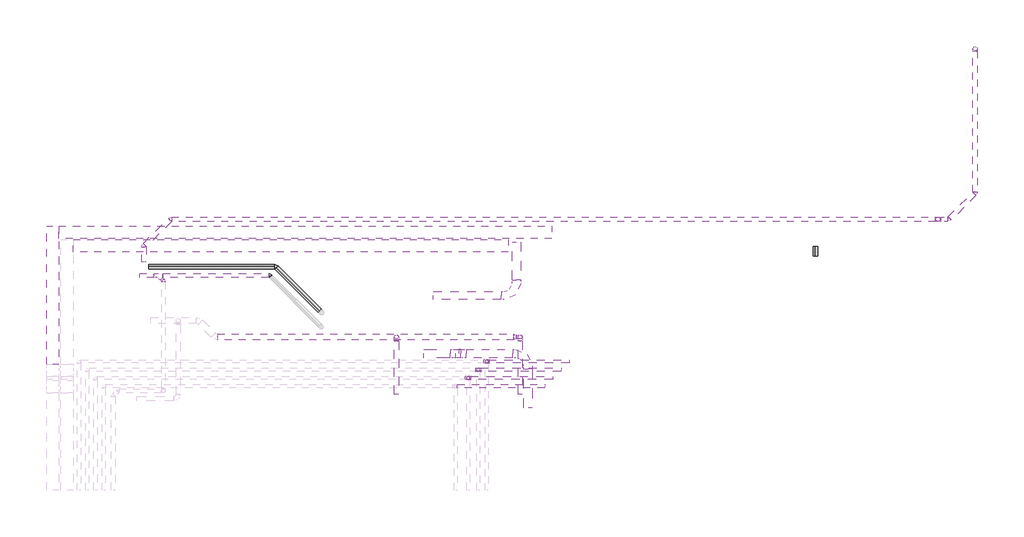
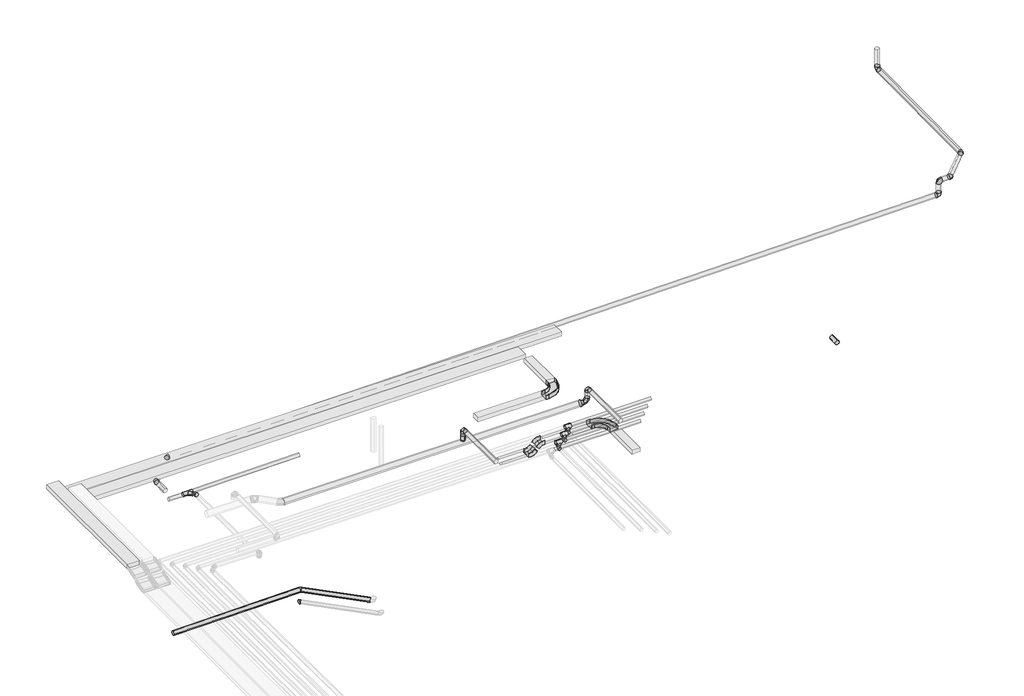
# One storey, part 5 of 5: 21 pipe segments, 17 pipe fittings, 9 cable carrier segments, 5 duct fittings, 5 duct segments, 4 cable carrier fittings.
"""IFC4 building model written with IfcOpenShell, lengths in millimetres."""

from ifc_helpers import new_model, si_unit, point, frame, frame_2d, origin, place, context, project, spatial, polyline, circle_curve, trimmed, segment, composite_curve, outline, extrude, transform, mapped, element, save
from components import m_codo_horizontal_de_canal_el_01cafb92, m_codo_vertical_exterior_de_canal_sf_2009c7b2, m_codo_vertical_interior_de_canal_sf_1a39cf6d, duct_fitting_dce10068, ext_4e2ed20d, m_codo_redondo_ext_1_d_85067ab4, pipe_fitting_7b861d32, pipe_fitting_67d104e7, pipe_fitting_3454c7e7, pipe_fitting_f9aaa2fa, pipe_fitting_5746b48a, pipe_fitting_3a68447e, pipe_fitting_2586d89a, pipe_fitting_872c9969, t_soldadura_a_enchufe_ff252817

model = new_model("IFC4")

# Units and contexts
model_context = context("Model", 3, world=origin())
ifc_project = project(units=[si_unit("LENGTHUNIT", "METRE", prefix="MILLI")], contexts=[model_context])

# Site, building, storey
site = spatial("IfcSite", under=ifc_project)
building = spatial("IfcBuilding", under=site)
storey = spatial("IfcBuildingStorey", under=building, Name="Nivell 04 P04_PP", Elevation=22410.0)

# Cable carrier fittings
placement = place(None, origin())
m_codo_horizontal_de_canal_el_shape = m_codo_horizontal_de_canal_el_01cafb92(model_context)
element("IfcCableCarrierFitting", 1, ObjectType="M_Codo horizontal de canal : EL", at=placement, inside=storey, context=model_context, shape_type="MappedRepresentation", body=[
    mapped(m_codo_horizontal_de_canal_el_shape, transform((16260.4560007, 7993.9729991, 25220.0), x_axis=(1.0, 0.0, 0.0), y_axis=(0.0, 1.0, 0.0), z_axis=(0.0, 0.0, 1.0))),
])
element("IfcCableCarrierFitting", 2, ObjectType="M_Codo horizontal de canal : SF", at=placement, inside=storey, context=model_context, shape_type="MappedRepresentation", body=[
    mapped(m_codo_horizontal_de_canal_el_shape, transform((16540.4560007, 6585.5467988, 25220.0), x_axis=(0.0, 1.0, 0.0), y_axis=(-1.0, 0.0, 0.0), z_axis=(0.0, 0.0, 1.0))),
])
m_codo_vertical_exterior_de_canal_sf_shape = m_codo_vertical_exterior_de_canal_sf_2009c7b2(model_context)
element("IfcCableCarrierFitting", 3, ObjectType="M_Codo vertical exterior de canal : SF", at=placement, inside=storey, context=model_context, shape_type="MappedRepresentation", body=[
    mapped(m_codo_vertical_exterior_de_canal_sf_shape, transform((14940.4560007, 6585.5467988, 25220.0), x_axis=(-1.0, 0.0, 0.0), y_axis=(0.0, 0.0, -1.0), z_axis=(0.0, -1.0, 0.0))),
])
m_codo_vertical_interior_de_canal_sf_shape = m_codo_vertical_interior_de_canal_sf_1a39cf6d(model_context)
element("IfcCableCarrierFitting", 4, ObjectType="M_Codo vertical interior de canal : SF", at=placement, inside=storey, context=model_context, shape_type="MappedRepresentation", body=[
    mapped(m_codo_vertical_interior_de_canal_sf_shape, transform((14749.5371698, 6585.5467988, 25029.0811691), x_axis=(-0.707106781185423, 0.0, -0.7071067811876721), y_axis=(-0.7071067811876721, 0.0, 0.707106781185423), z_axis=(0.0, 1.0, 0.0))),
])

# Cable carrier segments
element("IfcCableCarrierSegment", 5, ObjectType="EL", at=placement, inside=storey, context=model_context, shape_type="SweptSolid", body=[
    extrude(outline(polyline([(17114.9442475, 9685.9660196), (17114.9442475, 9385.9660196), (5158.2381883, 9385.9660196), (5158.2381883, 9685.9660196), (17114.9442475, 9685.9660196)])), frame((0.0, 0.0, 25460.0), z_axis=(0.0, 0.0, 1.0), x_axis=(1.0, 0.0, 0.0)), (0.0, 0.0, 1.0), 100.0),
])
element("IfcCableCarrierSegment", 6, ObjectType="EL", at=placement, inside=storey, context=model_context, shape_type="SweptSolid", body=[
    extrude(outline(polyline([(5507.0671065, 9056.732053), (5507.0671065, 9356.732053), (16057.0671065, 9356.732053), (16057.0671065, 9056.732053), (5507.0671065, 9056.732053)])), frame((0.0, 0.0, 25460.0), z_axis=(0.0, 0.0, 1.0), x_axis=(1.0, 0.0, 0.0)), (0.0, 0.0, 1.0), 100.0),
])
element("IfcCableCarrierSegment", 7, ObjectType="EL", at=placement, inside=storey, context=model_context, shape_type="SweptSolid", body=[
    extrude(outline(polyline([(14245.4560007, 7893.9729991), (14245.4560007, 8093.9729991), (15885.4560007, 8093.9729991), (15885.4560007, 7893.9729991), (14245.4560007, 7893.9729991)])), frame((0.0, 0.0, 25170.0), z_axis=(0.0, 0.0, 1.0), x_axis=(1.0, 0.0, 0.0)), (0.0, 0.0, 1.0), 100.0),
])
element("IfcCableCarrierSegment", 8, ObjectType="EL", at=placement, inside=storey, context=model_context, shape_type="SweptSolid", body=[
    extrude(outline(polyline([(16360.4560007, 8368.9729991), (16160.4560007, 8368.9729991), (16160.4560007, 9293.9729991), (16360.4560007, 9293.9729991), (16360.4560007, 8368.9729991)])), frame((0.0, 0.0, 25170.0), z_axis=(0.0, 0.0, 1.0), x_axis=(1.0, 0.0, 0.0)), (0.0, 0.0, 1.0), 100.0),
])
element("IfcCableCarrierSegment", 9, ObjectType="EL", at=placement, inside=storey, context=model_context, shape_type="SweptSolid", body=[
    extrude(outline(polyline([(4858.2381883, 9685.9660196), (5158.2381883, 9685.9660196), (5158.2381883, 6318.3981673), (4858.2381883, 6318.3981673), (4858.2381883, 9685.9660196)])), frame((0.0, 0.0, 25660.0), z_axis=(0.0, 0.0, 1.0), x_axis=(1.0, 0.0, 0.0)), (0.0, 0.0, 1.0), 100.0),
])
element("IfcCableCarrierSegment", 10, ObjectType="SF", at=placement, inside=storey, context=model_context, shape_type="SweptSolid", body=[
    extrude(outline(polyline([(16165.4560007, 6685.5467988), (16165.4560007, 6485.5467988), (15040.3088145, 6485.5467988), (15040.3088145, 6685.5467988), (16165.4560007, 6685.5467988)])), frame((0.0, 0.0, 25170.0), z_axis=(0.0, 0.0, 1.0), x_axis=(1.0, 0.0, 0.0)), (0.0, 0.0, 1.0), 100.0),
])
element("IfcCableCarrierSegment", 11, ObjectType="SF", at=placement, inside=storey, context=model_context, shape_type="SweptSolid", body=[
    extrude(outline(polyline([(16640.4560007, 5265.5467988), (16440.4560007, 5265.5467988), (16440.4560007, 6210.5467988), (16640.4560007, 6210.5467988), (16640.4560007, 5265.5467988)])), frame((0.0, 0.0, 25170.0), z_axis=(0.0, 0.0, 1.0), x_axis=(1.0, 0.0, 0.0)), (0.0, 0.0, 1.0), 100.0),
])
element("IfcCableCarrierSegment", 12, ObjectType="SF", at=placement, inside=storey, context=model_context, shape_type="SweptSolid", body=[
    extrude(outline(polyline([(50.0000001, -11.8033989), (50.0000001, -211.8033989), (-50.0, -211.8033989), (-50.0, -11.8033989), (50.0000001, -11.8033989)])), frame((14820.1437715, 6697.3501977, 25099.6877708), z_axis=(0.7071067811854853, 0.0, 0.7071067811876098), x_axis=(0.7071067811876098, 0.0, -0.7071067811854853)), (0.0, 0.0, 1.0), 70.2943725),
])
element("IfcCableCarrierSegment", 13, ObjectType="SF", at=placement, inside=storey, context=model_context, shape_type="SweptSolid", body=[
    extrude(outline(polyline([(14649.6843561, 6685.5467988), (14649.6843561, 6485.5467988), (14009.5371698, 6485.5467988), (14009.5371698, 6685.5467988), (14649.6843561, 6685.5467988)])), frame((0.0, 0.0, 24979.0811691), z_axis=(0.0, 0.0, 1.0), x_axis=(1.0, 0.0, 0.0)), (0.0, 0.0, 1.0), 100.0),
])

# Duct fittings
duct_fitting_shape = duct_fitting_dce10068(model_context)
element("IfcDuctFitting", 14, ObjectType="M_Transición redonda - Ángulo : EXT_45 graus", at=placement, inside=storey, context=model_context, shape_type="MappedRepresentation", body=[
    mapped(duct_fitting_shape, transform((16250.5896993, 6992.2199701, 25515.0), x_axis=(-1.0, 0.0, 0.0), y_axis=(0.0, -1.0, 0.0), z_axis=(0.0, 0.0, 1.0))),
])
ext_shape = ext_4e2ed20d(model_context)
element("IfcDuctFitting", 15, ObjectType="M_Toma de derivación redonda : EXT", at=placement, inside=storey, context=model_context, shape_type="MappedRepresentation", body=[
    mapped(ext_shape, transform((13350.5896993, 6992.2199701, 25590.0), x_axis=(0.0, 0.0, 1.0), y_axis=(1.0, 0.0, 0.0), z_axis=(0.0, 1.0, 0.0))),
])
m_codo_redondo_ext_1_d_shape = m_codo_redondo_ext_1_d_85067ab4(model_context)
element("IfcDuctFitting", 16, ObjectType="M_Codo redondo : EXT_1 D", at=placement, inside=storey, context=model_context, shape_type="MappedRepresentation", body=[
    mapped(m_codo_redondo_ext_1_d_shape, transform((16350.5896993, 6992.2199701, 25860.0), x_axis=(0.0, 1.0, 0.0), y_axis=(0.0, 0.0, -1.0), z_axis=(-1.0, 0.0, 0.0))),
])
element("IfcDuctFitting", 17, ObjectType="M_Codo redondo : EXT_1 D", at=placement, inside=storey, context=model_context, shape_type="MappedRepresentation", body=[
    mapped(m_codo_redondo_ext_1_d_shape, transform((13350.5896993, 6992.2199701, 25860.0), x_axis=(0.0, 1.0, 0.0), y_axis=(0.0, 0.0, -1.0), z_axis=(-1.0, 0.0, 0.0))),
])
element("IfcDuctFitting", 18, ObjectType="M_Codo redondo : EXT_1 D", at=placement, inside=storey, context=model_context, shape_type="MappedRepresentation", body=[
    mapped(m_codo_redondo_ext_1_d_shape, transform((16350.5896993, 6992.2199701, 25515.0), x_axis=(0.0, 0.0, -1.0), y_axis=(-1.0, 0.0, 0.0), z_axis=(0.0, 1.0, 0.0))),
])

# Duct segments
element("IfcDuctSegment", 19, ObjectType="EXT_Acer Galvanitzat - Rígid", at=placement, inside=storey, context=model_context, shape_type="SweptSolid", body=[
    extrude(outline(composite_curve([segment(trimmed(circle_curve(frame_2d((6992.2199701, 25515.0)), 75.0), [point((7067.2199701, 25515.0))], [point((6992.2199701, 25440.0))], False, "CARTESIAN"), True, "CONTINUOUS"), segment(trimmed(circle_curve(frame_2d((6992.2199701, 25515.0)), 75.0), [point((6992.2199701, 25440.0))], [point((6917.2199701, 25515.0))], False, "CARTESIAN"), True, "CONTINUOUS"), segment(trimmed(circle_curve(frame_2d((6992.2199701, 25515.0)), 75.0), [point((6917.2199701, 25515.0))], [point((6992.2199701, 25590.0))], False, "CARTESIAN"), True, "CONTINUOUS"), segment(trimmed(circle_curve(frame_2d((6992.2199701, 25515.0)), 75.0), [point((6992.2199701, 25590.0))], [point((7067.2199701, 25515.0))], False, "CARTESIAN"), True, "CONTINUOUS")], self_intersect=False)), frame((9012.7217336, 0.0, 0.0), z_axis=(1.0, 0.0, 0.0), x_axis=(0.0, 1.0, 0.0)), (0.0, 0.0, 1.0), 7177.5126266),
])
element("IfcDuctSegment", 20, ObjectType="EXT_Acer Galvanitzat - Rígid", at=placement, inside=storey, context=model_context, shape_type="SweptSolid", body=[
    extrude(outline(composite_curve([segment(trimmed(circle_curve(frame_2d((25860.0, 13350.5896993)), 50.0), [point((25860.0, 13300.5896993))], [point((25810.0, 13350.5896993))], False, "CARTESIAN"), True, "CONTINUOUS"), segment(trimmed(circle_curve(frame_2d((25860.0, 13350.5896993)), 50.0), [point((25810.0, 13350.5896993))], [point((25860.0, 13400.5896993))], False, "CARTESIAN"), True, "CONTINUOUS"), segment(trimmed(circle_curve(frame_2d((25860.0, 13350.5896993)), 50.0), [point((25860.0, 13400.5896993))], [point((25910.0, 13350.5896993))], False, "CARTESIAN"), True, "CONTINUOUS"), segment(trimmed(circle_curve(frame_2d((25860.0, 13350.5896993)), 50.0), [point((25910.0, 13350.5896993))], [point((25860.0, 13300.5896993))], False, "CARTESIAN"), True, "CONTINUOUS")], self_intersect=False)), frame((0.0, 5590.7319202, 0.0), z_axis=(0.0, 1.0, 0.0), x_axis=(0.0, 0.0, 1.0)), (0.0, 0.0, 1.0), 1301.48805),
])
element("IfcDuctSegment", 21, ObjectType="EXT_Acer Galvanitzat - Rígid", at=placement, inside=storey, context=model_context, shape_type="SweptSolid", body=[
    extrude(outline(composite_curve([segment(trimmed(circle_curve(frame_2d((13350.5896993, 6992.2199701)), 50.0), [point((13300.5896993, 6992.2199701))], [point((13350.5896993, 7042.2199701))], False, "CARTESIAN"), True, "CONTINUOUS"), segment(trimmed(circle_curve(frame_2d((13350.5896993, 6992.2199701)), 50.0), [point((13350.5896993, 7042.2199701))], [point((13400.5896993, 6992.2199701))], False, "CARTESIAN"), True, "CONTINUOUS"), segment(trimmed(circle_curve(frame_2d((13350.5896993, 6992.2199701)), 50.0), [point((13400.5896993, 6992.2199701))], [point((13350.5896993, 6942.2199701))], False, "CARTESIAN"), True, "CONTINUOUS"), segment(trimmed(circle_curve(frame_2d((13350.5896993, 6992.2199701)), 50.0), [point((13350.5896993, 6942.2199701))], [point((13300.5896993, 6992.2199701))], False, "CARTESIAN"), True, "CONTINUOUS")], self_intersect=False)), frame((0.0, 0.0, 25691.6), z_axis=(0.0, 0.0, 1.0), x_axis=(1.0, 0.0, 0.0)), (0.0, 0.0, 1.0), 68.4),
])
element("IfcDuctSegment", 22, ObjectType="EXT_Acer Galvanitzat - Rígid", at=placement, inside=storey, context=model_context, shape_type="SweptSolid", body=[
    extrude(outline(composite_curve([segment(trimmed(circle_curve(frame_2d((25860.0, 16350.5896993)), 50.0), [point((25860.0, 16300.5896993))], [point((25810.0, 16350.5896993))], False, "CARTESIAN"), True, "CONTINUOUS"), segment(trimmed(circle_curve(frame_2d((25860.0, 16350.5896993)), 50.0), [point((25810.0, 16350.5896993))], [point((25860.0, 16400.5896993))], False, "CARTESIAN"), True, "CONTINUOUS"), segment(trimmed(circle_curve(frame_2d((25860.0, 16350.5896993)), 50.0), [point((25860.0, 16400.5896993))], [point((25910.0, 16350.5896993))], False, "CARTESIAN"), True, "CONTINUOUS"), segment(trimmed(circle_curve(frame_2d((25860.0, 16350.5896993)), 50.0), [point((25910.0, 16350.5896993))], [point((25860.0, 16300.5896993))], False, "CARTESIAN"), True, "CONTINUOUS")], self_intersect=False)), frame((0.0, 5590.7319202, 0.0), z_axis=(0.0, 1.0, 0.0), x_axis=(0.0, 0.0, 1.0)), (0.0, 0.0, 1.0), 1301.48805),
])
element("IfcDuctSegment", 23, ObjectType="EXT_Acer Galvanitzat - Rígid", at=placement, inside=storey, context=model_context, shape_type="SweptSolid", body=[
    extrude(outline(composite_curve([segment(trimmed(circle_curve(frame_2d((16350.5896993, 6992.2199701)), 50.0), [point((16400.5896993, 6992.2199701))], [point((16350.5896993, 6942.2199701))], False, "CARTESIAN"), True, "CONTINUOUS"), segment(trimmed(circle_curve(frame_2d((16350.5896993, 6992.2199701)), 50.0), [point((16350.5896993, 6942.2199701))], [point((16300.5896993, 6992.2199701))], False, "CARTESIAN"), True, "CONTINUOUS"), segment(trimmed(circle_curve(frame_2d((16350.5896993, 6992.2199701)), 50.0), [point((16300.5896993, 6992.2199701))], [point((16350.5896993, 7042.2199701))], False, "CARTESIAN"), True, "CONTINUOUS"), segment(trimmed(circle_curve(frame_2d((16350.5896993, 6992.2199701)), 50.0), [point((16350.5896993, 7042.2199701))], [point((16400.5896993, 6992.2199701))], False, "CARTESIAN"), True, "CONTINUOUS")], self_intersect=False)), frame((0.0, 0.0, 25615.0), z_axis=(0.0, 0.0, 1.0), x_axis=(1.0, 0.0, 0.0)), (0.0, 0.0, 1.0), 145.0),
])

# Pipe fittings
pipe_fitting_shape = pipe_fitting_7b861d32(model_context)
element("IfcPipeFitting", 24, ObjectType="M_Codo - Genérico : Estándar", at=placement, inside=storey, context=model_context, shape_type="MappedRepresentation", body=[
    mapped(pipe_fitting_shape, transform((10278.5438771, 8480.6962959, 21614.6582407), x_axis=(-0.7070714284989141, 0.7070714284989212, -0.009999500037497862), y_axis=(-0.7070714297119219, -0.7071300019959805, -0.004141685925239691), z_axis=(-0.009999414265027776, 0.004141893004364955, 0.9999414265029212))),
])
pipe_fitting_2_shape = pipe_fitting_67d104e7(model_context)
element("IfcPipeFitting", 25, ObjectType="M_Codo - Genérico : Estándar", at=placement, inside=storey, context=model_context, shape_type="MappedRepresentation", body=[
    mapped(pipe_fitting_2_shape, transform((10418.5757792, 8697.1771083, 21744.2175715), x_axis=(0.9999500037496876, 0.0, 0.009999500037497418), y_axis=(4.141685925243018e-05, 0.9999914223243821, -0.004141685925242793), z_axis=(-0.009999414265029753, 0.004141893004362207, 0.9999414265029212))),
])
element("IfcPipeFitting", 26, ObjectType="M_Codo - Genérico : Estándar", at=placement, inside=storey, context=model_context, shape_type="MappedRepresentation", body=[
    mapped(pipe_fitting_2_shape, transform((27389.4059114, 10484.655764, 25874.9769213), x_axis=(0.0, -0.9999500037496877, -0.009999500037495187), y_axis=(0.9999914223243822, -4.141685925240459e-05, 0.004141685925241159), z_axis=(-0.004141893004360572, -0.009999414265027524, 0.9999414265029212))),
])
element("IfcPipeFitting", 27, ObjectType="M_Codo - Genérico : Estándar", at=placement, inside=storey, context=model_context, shape_type="MappedRepresentation", body=[
    mapped(pipe_fitting_2_shape, transform((7870.0068596, 9850.5932442, 25326.0671248), x_axis=(0.7070714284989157, 0.7070714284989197, 0.009999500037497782), y_axis=(-0.7070714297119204, 0.7071300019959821, -0.004141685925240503), z_axis=(-0.009999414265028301, -0.004141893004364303, 0.9999414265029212))),
])
element("IfcPipeFitting", 28, ObjectType="M_Codo - Genérico : Estándar", at=placement, inside=storey, context=model_context, shape_type="MappedRepresentation", body=[
    mapped(pipe_fitting_2_shape, transform((7222.8096734, 9203.3949709, 25316.9143667), x_axis=(0.0, 0.9999500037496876, 0.009999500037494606), y_axis=(-0.9999914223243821, 4.141685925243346e-05, -0.004141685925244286), z_axis=(-0.004141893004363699, -0.009999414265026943, 0.9999414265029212))),
])
pipe_fitting_3_shape = pipe_fitting_3454c7e7(model_context)
element("IfcPipeFitting", 29, ObjectType="M_Codo - Genérico : Estándar", at=placement, inside=storey, context=model_context, shape_type="MappedRepresentation", body=[
    mapped(pipe_fitting_3_shape, transform((27389.4059114, 13986.9636366, 25910.0), x_axis=(0.0, 0.0, -1.0), y_axis=(0.0, 1.0, 0.0), z_axis=(1.0, 0.0, 0.0))),
])
element("IfcPipeFitting", 30, ObjectType="M_Codo - Genérico : Estándar", at=placement, inside=storey, context=model_context, shape_type="MappedRepresentation", body=[
    mapped(pipe_fitting_3_shape, transform((26487.5503889, 9850.5932442, 25512.2425601), x_axis=(0.9999500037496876, 0.0, 0.00999950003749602), y_axis=(0.00999950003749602, 0.0, -0.9999500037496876), z_axis=(0.0, 1.0, 0.0))),
])
pipe_fitting_4_shape = pipe_fitting_f9aaa2fa(model_context)
element("IfcPipeFitting", 31, ObjectType="M_Codo - Genérico : Estándar", at=placement, inside=storey, context=model_context, shape_type="MappedRepresentation", body=[
    mapped(pipe_fitting_4_shape, transform((26755.352721, 9850.6025322, 25866.0030113), x_axis=(-0.7070713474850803, -0.7070713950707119, -0.010007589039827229), y_axis=(0.7070715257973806, -0.7071299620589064, 0.0041320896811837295), z_axis=(-0.009998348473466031, -0.004154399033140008, 0.9999413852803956))),
])
pipe_fitting_5_shape = pipe_fitting_5746b48a(model_context)
element("IfcPipeFitting", 32, ObjectType="M_Codo - Genérico : Estándar", at=placement, inside=storey, context=model_context, shape_type="MappedRepresentation", body=[
    mapped(pipe_fitting_5_shape, transform((26487.5503889, 9850.6025322, 25863.3252733), x_axis=(-0.9999500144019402, 0.0, -0.009998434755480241), y_axis=(-0.009998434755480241, 0.0, 0.9999500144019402), z_axis=(0.0, 1.0, 0.0))),
])
pipe_fitting_6_shape = pipe_fitting_3a68447e(model_context)
element("IfcPipeFitting", 33, ObjectType="M_Codo - Genérico : Estándar", at=placement, inside=storey, context=model_context, shape_type="MappedRepresentation", body=[
    mapped(pipe_fitting_6_shape, transform((15087.4352568, 5994.2427547, 25372.5), x_axis=(0.0, 0.0, -1.0), y_axis=(0.0, -1.0, 0.0), z_axis=(-1.0, 0.0, 0.0))),
])
element("IfcPipeFitting", 34, ObjectType="M_Codo - Genérico : Estándar", at=placement, inside=storey, context=model_context, shape_type="MappedRepresentation", body=[
    mapped(pipe_fitting_6_shape, transform((15337.4352568, 6194.2427547, 25372.5), x_axis=(0.0, 0.0, -1.0), y_axis=(0.0, -1.0, 0.0), z_axis=(-1.0, 0.0, 0.0))),
])
element("IfcPipeFitting", 35, ObjectType="M_Codo - Genérico : Estándar", at=placement, inside=storey, context=model_context, shape_type="MappedRepresentation", body=[
    mapped(pipe_fitting_6_shape, transform((15537.4352568, 6394.2427547, 25372.5), x_axis=(0.0, 0.0, -1.0), y_axis=(0.0, -1.0, 0.0), z_axis=(-1.0, 0.0, 0.0))),
])
pipe_fitting_7_shape = pipe_fitting_2586d89a(model_context)
element("IfcPipeFitting", 36, ObjectType="M_Codo - Genérico : Estándar", at=placement, inside=storey, context=model_context, shape_type="MappedRepresentation", body=[
    mapped(pipe_fitting_7_shape, transform((7694.7851552, 8352.4015426, 25339.3520633), x_axis=(-1.0272484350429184e-06, 0.9999500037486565, -0.009999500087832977), y_axis=(-0.9999914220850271, -4.2444624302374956e-05, -0.004141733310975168), z_axis=(-0.004141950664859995, 0.009999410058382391, 0.9999414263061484))),
])
pipe_fitting_8_shape = pipe_fitting_872c9969(model_context)
element("IfcPipeFitting", 37, ObjectType="M_Te - Genérica : Estándar", at=placement, inside=storey, context=model_context, shape_type="MappedRepresentation", body=[
    mapped(pipe_fitting_8_shape, transform((7566.4895317, 8480.6962959, 25337.5376996), x_axis=(0.9999500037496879, 0.0, 0.009999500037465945), y_axis=(4.141632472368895e-05, 0.9999914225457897, -0.004141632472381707), z_axis=(-0.009999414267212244, 0.004141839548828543, 0.999941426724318))),
])
t_soldadura_a_enchufe_shape = t_soldadura_a_enchufe_ff252817(model_context)
element("IfcPipeFitting", 38, ObjectType="T-Soldadura a enchufe : Estándar", at=placement, inside=storey, context=model_context, shape_type="MappedRepresentation", body=[
    mapped(t_soldadura_a_enchufe_shape, transform((15087.4352568, 5994.2427547, 25522.5), x_axis=(-1.0, 0.0, 0.0), y_axis=(0.0, 0.0, 1.0), z_axis=(0.0, 1.0, 0.0))),
])
element("IfcPipeFitting", 39, ObjectType="T-Soldadura a enchufe : Estándar", at=placement, inside=storey, context=model_context, shape_type="MappedRepresentation", body=[
    mapped(t_soldadura_a_enchufe_shape, transform((15337.4352568, 6194.2427547, 25522.5), x_axis=(-1.0, 0.0, 0.0), y_axis=(0.0, 0.0, 1.0), z_axis=(0.0, 1.0, 0.0))),
])
element("IfcPipeFitting", 40, ObjectType="T-Soldadura a enchufe : Estándar", at=placement, inside=storey, context=model_context, shape_type="MappedRepresentation", body=[
    mapped(t_soldadura_a_enchufe_shape, transform((15537.4352568, 6394.2427547, 25522.5), x_axis=(-1.0, 0.0, 0.0), y_axis=(0.0, 0.0, 1.0), z_axis=(0.0, 1.0, 0.0))),
])

# Pipe segments
element("IfcPipeSegment", 41, ObjectType="PVC_Baixant", at=placement, inside=storey, context=model_context, shape_type="SweptSolid", body=[
    extrude(outline(composite_curve([segment(trimmed(circle_curve(frame_2d((0.0, -55.0)), 55.0), [point((54.9972505, -54.450055))], [point((0.549945, -109.9972505))], False, "CARTESIAN"), True, "CONTINUOUS"), segment(trimmed(circle_curve(frame_2d((0.0, -55.0)), 55.0), [point((0.549945, -109.9972505))], [point((-54.9972505, -55.549945))], False, "CARTESIAN"), True, "CONTINUOUS"), segment(trimmed(circle_curve(frame_2d((0.0, -55.0)), 55.0), [point((-54.9972505, -55.549945))], [point((-0.549945, -0.0027495))], False, "CARTESIAN"), True, "CONTINUOUS"), segment(trimmed(circle_curve(frame_2d((0.0, -55.0)), 55.0), [point((-0.549945, -0.0027495))], [point((54.9972505, -54.450055))], False, "CARTESIAN"), True, "CONTINUOUS")], self_intersect=False)), frame((10437.0077448, 8679.5228824, 21799.4727397), z_axis=(0.7070714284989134, -0.707071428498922, 0.009999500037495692), x_axis=(0.7071421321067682, 0.7070007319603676, -0.009998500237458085)), (0.0, 0.0, 1.0), 1489.9424458),
])
element("IfcPipeSegment", 42, ObjectType="PVC_Baixant", at=placement, inside=storey, context=model_context, shape_type="SweptSolid", body=[
    extrude(outline(composite_curve([segment(trimmed(circle_curve(frame_2d((0.0, -55.0)), 55.0), [point((0.0, 0.0))], [point((55.0, -55.0))], False, "CARTESIAN"), True, "CONTINUOUS"), segment(trimmed(circle_curve(frame_2d((0.0, -55.0)), 55.0), [point((55.0, -55.0))], [point((0.0, -110.0))], False, "CARTESIAN"), True, "CONTINUOUS"), segment(trimmed(circle_curve(frame_2d((0.0, -55.0)), 55.0), [point((0.0, -110.0))], [point((-55.0, -55.0))], False, "CARTESIAN"), True, "CONTINUOUS"), segment(trimmed(circle_curve(frame_2d((0.0, -55.0)), 55.0), [point((-55.0, -55.0))], [point((0.0, 0.0))], False, "CARTESIAN"), True, "CONTINUOUS")], self_intersect=False)), frame((7340.3329326, 8752.1771083, 21713.4351431), z_axis=(0.9999500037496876, 0.0, 0.009999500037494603), x_axis=(0.009999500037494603, 0.0, -0.9999500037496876)), (0.0, 0.0, 1.0), 3052.3287157),
])
element("IfcPipeSegment", 43, ObjectType="PVC_Baixant", at=placement, inside=storey, context=model_context, shape_type="SweptSolid", body=[
    extrude(outline(composite_curve([segment(trimmed(circle_curve(frame_2d((27389.4059114, 13986.9636366)), 55.0), [point((27334.4059114, 13986.9636366))], [point((27389.4059114, 14041.9636366))], False, "CARTESIAN"), True, "CONTINUOUS"), segment(trimmed(circle_curve(frame_2d((27389.4059114, 13986.9636366)), 55.0), [point((27389.4059114, 14041.9636366))], [point((27444.4059114, 13986.9636366))], False, "CARTESIAN"), True, "CONTINUOUS"), segment(trimmed(circle_curve(frame_2d((27389.4059114, 13986.9636366)), 55.0), [point((27444.4059114, 13986.9636366))], [point((27389.4059114, 13931.9636366))], False, "CARTESIAN"), True, "CONTINUOUS"), segment(trimmed(circle_curve(frame_2d((27389.4059114, 13986.9636366)), 55.0), [point((27389.4059114, 13931.9636366))], [point((27334.4059114, 13986.9636366))], False, "CARTESIAN"), True, "CONTINUOUS")], self_intersect=False)), frame((0.0, 0.0, 25972.3112718), z_axis=(0.0, 0.0, 1.0), x_axis=(1.0, 0.0, 0.0)), (0.0, 0.0, 1.0), 437.6887282),
])
element("IfcPipeSegment", 44, ObjectType="PVC_Baixant", at=placement, inside=storey, context=model_context, shape_type="SweptSolid", body=[
    extrude(outline(composite_curve([segment(trimmed(circle_curve(frame_2d((0.0, -55.0)), 55.0), [point((-55.0, -55.0))], [point((0.0, 0.0))], False, "CARTESIAN"), True, "CONTINUOUS"), segment(trimmed(circle_curve(frame_2d((0.0, -55.0)), 55.0), [point((0.0, 0.0))], [point((55.0, -55.0))], False, "CARTESIAN"), True, "CONTINUOUS"), segment(trimmed(circle_curve(frame_2d((0.0, -55.0)), 55.0), [point((55.0, -55.0))], [point((0.0, -110.0))], False, "CARTESIAN"), True, "CONTINUOUS"), segment(trimmed(circle_curve(frame_2d((0.0, -55.0)), 55.0), [point((0.0, -110.0))], [point((-55.0, -55.0))], False, "CARTESIAN"), True, "CONTINUOUS")], self_intersect=False)), frame((27389.4059114, 10511.2724723, 25820.2403384), z_axis=(0.0, 0.9999500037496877, 0.009999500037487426), x_axis=(1.0, 0.0, 0.0)), (0.0, 0.0, 1.0), 3414.1036727),
])
element("IfcPipeSegment", 45, ObjectType="PVC_Baixant", at=placement, inside=storey, context=model_context, shape_type="SweptSolid", body=[
    extrude(outline(composite_curve([segment(trimmed(circle_curve(frame_2d((0.0, -55.0)), 55.0), [point((-54.997246, -54.4496102))], [point((0.5503898, -0.0027539))], False, "CARTESIAN"), True, "CONTINUOUS"), segment(trimmed(circle_curve(frame_2d((0.0, -55.0)), 55.0), [point((0.5503898, -0.0027539))], [point((54.997246, -55.5503898))], False, "CARTESIAN"), True, "CONTINUOUS"), segment(trimmed(circle_curve(frame_2d((0.0, -55.0)), 55.0), [point((54.997246, -55.5503898))], [point((-0.5503899, -109.9972461))], False, "CARTESIAN"), True, "CONTINUOUS"), segment(trimmed(circle_curve(frame_2d((0.0, -55.0)), 55.0), [point((-0.5503899, -109.9972461))], [point((-54.997246, -54.4496102))], False, "CARTESIAN"), True, "CONTINUOUS")], self_intersect=False)), frame((26773.7846855, 9869.8128666, 25811.2693976), z_axis=(0.7070713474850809, 0.7070713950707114, 0.010007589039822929), x_axis=(0.7071422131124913, -0.707000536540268, -0.010006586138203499)), (0.0, 0.0, 1.0), 844.5954746),
])
element("IfcPipeSegment", 46, ObjectType="PVC_Baixant", at=placement, inside=storey, context=model_context, shape_type="SweptSolid", body=[
    extrude(outline(composite_curve([segment(trimmed(circle_curve(frame_2d((0.0, -55.0)), 55.0), [point((0.0, 0.0))], [point((55.0, -55.0))], False, "CARTESIAN"), True, "CONTINUOUS"), segment(trimmed(circle_curve(frame_2d((0.0, -55.0)), 55.0), [point((55.0, -55.0))], [point((0.0, -110.0))], False, "CARTESIAN"), True, "CONTINUOUS"), segment(trimmed(circle_curve(frame_2d((0.0, -55.0)), 55.0), [point((0.0, -110.0))], [point((-55.0, -55.0))], False, "CARTESIAN"), True, "CONTINUOUS"), segment(trimmed(circle_curve(frame_2d((0.0, -55.0)), 55.0), [point((-55.0, -55.0))], [point((0.0, 0.0))], False, "CARTESIAN"), True, "CONTINUOUS")], self_intersect=False)), frame((7896.0735954, 9905.5932442, 25326.3277921), z_axis=(0.9999500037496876, 0.0, 0.009999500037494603), x_axis=(0.009999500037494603, 0.0, -0.9999500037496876)), (0.0, 0.0, 1.0), 18530.0950724),
])
element("IfcPipeSegment", 47, ObjectType="PVC_Baixant", at=placement, inside=storey, context=model_context, shape_type="SweptSolid", body=[
    extrude(outline(composite_curve([segment(trimmed(circle_curve(frame_2d((0.0, -55.0000001)), 55.0), [point((-54.9972505, -54.450056))], [point((0.549944, -0.0027495))], False, "CARTESIAN"), True, "CONTINUOUS"), segment(trimmed(circle_curve(frame_2d((0.0, -55.0000001)), 55.0), [point((0.549944, -0.0027495))], [point((54.9972505, -55.5499441))], False, "CARTESIAN"), True, "CONTINUOUS"), segment(trimmed(circle_curve(frame_2d((0.0, -55.0000001)), 55.0), [point((54.9972505, -55.5499441))], [point((-0.5499441, -109.9972505))], False, "CARTESIAN"), True, "CONTINUOUS"), segment(trimmed(circle_curve(frame_2d((0.0, -55.0000001)), 55.0), [point((-0.5499441, -109.9972505))], [point((-54.9972505, -54.450056))], False, "CARTESIAN"), True, "CONTINUOUS")], self_intersect=False)), frame((7241.2416391, 9222.6046755, 25262.1805332), z_axis=(0.7070707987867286, 0.707072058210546, 0.009999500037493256), x_axis=(0.7071427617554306, -0.707000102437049, -0.009998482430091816)), (0.0, 0.0, 1.0), 863.1854914),
])
element("IfcPipeSegment", 48, ObjectType="PVC_Baixant", at=placement, inside=storey, context=model_context, shape_type="SweptSolid", body=[
    extrude(outline(composite_curve([segment(trimmed(circle_curve(frame_2d((0.0, -55.0)), 55.0), [point((0.0, 0.0))], [point((55.0, -55.0))], False, "CARTESIAN"), True, "CONTINUOUS"), segment(trimmed(circle_curve(frame_2d((0.0, -55.0)), 55.0), [point((55.0, -55.0))], [point((0.0, -110.0))], False, "CARTESIAN"), True, "CONTINUOUS"), segment(trimmed(circle_curve(frame_2d((0.0, -55.0)), 55.0), [point((0.0, -110.0))], [point((-55.0, -55.0))], False, "CARTESIAN"), True, "CONTINUOUS"), segment(trimmed(circle_curve(frame_2d((0.0, -55.0)), 55.0), [point((-55.0, -55.0))], [point((0.0, 0.0))], False, "CARTESIAN"), True, "CONTINUOUS")], self_intersect=False)), frame((26549.8586125, 9905.6025322, 25863.9482891), z_axis=(0.9999500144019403, 0.0, 0.009998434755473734), x_axis=(0.009998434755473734, 0.0, -0.9999500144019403)), (0.0, 0.0, 1.0), 179.4363416),
])
element("IfcPipeSegment", 49, ObjectType="PVC_Baixant", at=placement, inside=storey, context=model_context, shape_type="SweptSolid", body=[
    extrude(outline(composite_curve([segment(trimmed(circle_curve(frame_2d((0.0, 55.0)), 55.0), [point((-55.0, 55.0))], [point((0.0, 110.0))], False, "CARTESIAN"), True, "CONTINUOUS"), segment(trimmed(circle_curve(frame_2d((0.0, 55.0)), 55.0), [point((0.0, 110.0))], [point((55.0, 55.0))], False, "CARTESIAN"), True, "CONTINUOUS"), segment(trimmed(circle_curve(frame_2d((0.0, 55.0)), 55.0), [point((55.0, 55.0))], [point((0.0, 0.0))], False, "CARTESIAN"), True, "CONTINUOUS"), segment(trimmed(circle_curve(frame_2d((0.0, 55.0)), 55.0), [point((0.0, 0.0))], [point((-55.0, 55.0))], False, "CARTESIAN"), True, "CONTINUOUS")], self_intersect=False)), frame((26487.5503889, 9795.5932442, 25574.5560876), z_axis=(0.0, 4.1014092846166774e-05, 0.9999999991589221), x_axis=(1.0, 0.0, 0.0)), (0.0, 0.0, 1.0), 226.4600963),
])
element("IfcPipeSegment", 50, ObjectType="PVC_Baixant", at=placement, inside=storey, context=model_context, shape_type="SweptSolid", body=[
    extrude(outline(composite_curve([segment(trimmed(circle_curve(frame_2d((0.0, -55.0)), 55.0), [point((-55.0, -55.0))], [point((0.0, 0.0))], False, "CARTESIAN"), True, "CONTINUOUS"), segment(trimmed(circle_curve(frame_2d((0.0, -55.0)), 55.0), [point((0.0, 0.0))], [point((55.0, -55.0))], False, "CARTESIAN"), True, "CONTINUOUS"), segment(trimmed(circle_curve(frame_2d((0.0, -55.0)), 55.0), [point((55.0, -55.0))], [point((0.0, -110.0000001))], False, "CARTESIAN"), True, "CONTINUOUS"), segment(trimmed(circle_curve(frame_2d((0.0, -55.0)), 55.0), [point((0.0, -110.0000001))], [point((-55.0, -55.0))], False, "CARTESIAN"), True, "CONTINUOUS")], self_intersect=False)), frame((7222.8096734, 8816.1056185, 25258.0387232), z_axis=(0.0, 0.999950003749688, 0.009999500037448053), x_axis=(1.0, 0.0, 0.0)), (0.0, 0.0, 1.0), 361.7906773),
])
element("IfcPipeSegment", 51, ObjectType="PPR_CLI_Aquatherm Blue Pipe", at=placement, inside=storey, context=model_context, shape_type="SweptSolid", body=[
    extrude(outline(composite_curve([segment(trimmed(circle_curve(frame_2d((5794.2427547, 25522.5)), 37.5), [point((5756.7427547, 25522.5))], [point((5794.2427547, 25560.0))], False, "CARTESIAN"), True, "CONTINUOUS"), segment(trimmed(circle_curve(frame_2d((5794.2427547, 25522.5)), 37.5), [point((5794.2427547, 25560.0))], [point((5831.7427547, 25522.5))], False, "CARTESIAN"), True, "CONTINUOUS"), segment(trimmed(circle_curve(frame_2d((5794.2427547, 25522.5)), 37.5), [point((5831.7427547, 25522.5))], [point((5794.2427547, 25485.0))], False, "CARTESIAN"), True, "CONTINUOUS"), segment(trimmed(circle_curve(frame_2d((5794.2427547, 25522.5)), 37.5), [point((5794.2427547, 25485.0))], [point((5756.7427547, 25522.5))], False, "CARTESIAN"), True, "CONTINUOUS")], self_intersect=False)), frame((14825.9352568, 0.0, 0.0), z_axis=(1.0, 0.0, 0.0), x_axis=(0.0, 1.0, 0.0)), (0.0, 0.0, 1.0), 2116.3840359),
])
element("IfcPipeSegment", 52, ObjectType="PPR_CLI_Aquatherm Blue Pipe", at=placement, inside=storey, context=model_context, shape_type="SweptSolid", body=[
    extrude(outline(composite_curve([segment(trimmed(circle_curve(frame_2d((5994.2427547, 25522.5)), 37.5), [point((5956.7427547, 25522.5))], [point((5994.2427547, 25560.0))], False, "CARTESIAN"), True, "CONTINUOUS"), segment(trimmed(circle_curve(frame_2d((5994.2427547, 25522.5)), 37.5), [point((5994.2427547, 25560.0))], [point((6031.7427547, 25522.5))], False, "CARTESIAN"), True, "CONTINUOUS"), segment(trimmed(circle_curve(frame_2d((5994.2427547, 25522.5)), 37.5), [point((6031.7427547, 25522.5))], [point((5994.2427547, 25485.0))], False, "CARTESIAN"), True, "CONTINUOUS"), segment(trimmed(circle_curve(frame_2d((5994.2427547, 25522.5)), 37.5), [point((5994.2427547, 25485.0))], [point((5956.7427547, 25522.5))], False, "CARTESIAN"), True, "CONTINUOUS")], self_intersect=False)), frame((15125.9352568, 0.0, 0.0), z_axis=(1.0, 0.0, 0.0), x_axis=(0.0, 1.0, 0.0)), (0.0, 0.0, 1.0), 2016.3840359),
])
element("IfcPipeSegment", 53, ObjectType="PPR_CLI_Aquatherm Blue Pipe", at=placement, inside=storey, context=model_context, shape_type="SweptSolid", body=[
    extrude(outline(composite_curve([segment(trimmed(circle_curve(frame_2d((6194.2427547, 25522.5)), 37.5), [point((6156.7427547, 25522.5))], [point((6194.2427547, 25560.0))], False, "CARTESIAN"), True, "CONTINUOUS"), segment(trimmed(circle_curve(frame_2d((6194.2427547, 25522.5)), 37.5), [point((6194.2427547, 25560.0))], [point((6231.7427547, 25522.5))], False, "CARTESIAN"), True, "CONTINUOUS"), segment(trimmed(circle_curve(frame_2d((6194.2427547, 25522.5)), 37.5), [point((6231.7427547, 25522.5))], [point((6194.2427547, 25485.0))], False, "CARTESIAN"), True, "CONTINUOUS"), segment(trimmed(circle_curve(frame_2d((6194.2427547, 25522.5)), 37.5), [point((6194.2427547, 25485.0))], [point((6156.7427547, 25522.5))], False, "CARTESIAN"), True, "CONTINUOUS")], self_intersect=False)), frame((15375.9352568, 0.0, 0.0), z_axis=(1.0, 0.0, 0.0), x_axis=(0.0, 1.0, 0.0)), (0.0, 0.0, 1.0), 1966.3840359),
])
element("IfcPipeSegment", 54, ObjectType="PPR_CLI_Aquatherm Blue Pipe", at=placement, inside=storey, context=model_context, shape_type="SweptSolid", body=[
    extrude(outline(composite_curve([segment(trimmed(circle_curve(frame_2d((6394.2427547, 25522.5)), 37.5), [point((6356.7427547, 25522.5))], [point((6394.2427547, 25560.0))], False, "CARTESIAN"), True, "CONTINUOUS"), segment(trimmed(circle_curve(frame_2d((6394.2427547, 25522.5)), 37.5), [point((6394.2427547, 25560.0))], [point((6431.7427547, 25522.5))], False, "CARTESIAN"), True, "CONTINUOUS"), segment(trimmed(circle_curve(frame_2d((6394.2427547, 25522.5)), 37.5), [point((6431.7427547, 25522.5))], [point((6394.2427547, 25485.0))], False, "CARTESIAN"), True, "CONTINUOUS"), segment(trimmed(circle_curve(frame_2d((6394.2427547, 25522.5)), 37.5), [point((6394.2427547, 25485.0))], [point((6356.7427547, 25522.5))], False, "CARTESIAN"), True, "CONTINUOUS")], self_intersect=False)), frame((15575.9352568, 0.0, 0.0), z_axis=(1.0, 0.0, 0.0), x_axis=(0.0, 1.0, 0.0)), (0.0, 0.0, 1.0), 1966.3840359),
])
element("IfcPipeSegment", 55, ObjectType="PPR_CLI_Aquatherm Blue Pipe", at=placement, inside=storey, context=model_context, shape_type="SweptSolid", body=[
    extrude(outline(composite_curve([segment(trimmed(circle_curve(frame_2d((15087.4352568, 5994.2427547)), 37.5), [point((15124.9352568, 5994.2427547))], [point((15087.4352568, 5956.7427547))], False, "CARTESIAN"), True, "CONTINUOUS"), segment(trimmed(circle_curve(frame_2d((15087.4352568, 5994.2427547)), 37.5), [point((15087.4352568, 5956.7427547))], [point((15049.9352568, 5994.2427547))], False, "CARTESIAN"), True, "CONTINUOUS"), segment(trimmed(circle_curve(frame_2d((15087.4352568, 5994.2427547)), 37.5), [point((15049.9352568, 5994.2427547))], [point((15087.4352568, 6031.7427547))], False, "CARTESIAN"), True, "CONTINUOUS"), segment(trimmed(circle_curve(frame_2d((15087.4352568, 5994.2427547)), 37.5), [point((15087.4352568, 6031.7427547))], [point((15124.9352568, 5994.2427547))], False, "CARTESIAN"), True, "CONTINUOUS")], self_intersect=False)), frame((0.0, 0.0, 25417.9375), z_axis=(0.0, 0.0, 1.0), x_axis=(1.0, 0.0, 0.0)), (0.0, 0.0, 1.0), 66.0625),
])
element("IfcPipeSegment", 56, ObjectType="PPR_CLI_Aquatherm Blue Pipe", at=placement, inside=storey, context=model_context, shape_type="SweptSolid", body=[
    extrude(outline(composite_curve([segment(trimmed(circle_curve(frame_2d((15337.4352568, 6194.2427547)), 37.5), [point((15374.9352568, 6194.2427547))], [point((15337.4352568, 6156.7427547))], False, "CARTESIAN"), True, "CONTINUOUS"), segment(trimmed(circle_curve(frame_2d((15337.4352568, 6194.2427547)), 37.5), [point((15337.4352568, 6156.7427547))], [point((15299.9352568, 6194.2427547))], False, "CARTESIAN"), True, "CONTINUOUS"), segment(trimmed(circle_curve(frame_2d((15337.4352568, 6194.2427547)), 37.5), [point((15299.9352568, 6194.2427547))], [point((15337.4352568, 6231.7427547))], False, "CARTESIAN"), True, "CONTINUOUS"), segment(trimmed(circle_curve(frame_2d((15337.4352568, 6194.2427547)), 37.5), [point((15337.4352568, 6231.7427547))], [point((15374.9352568, 6194.2427547))], False, "CARTESIAN"), True, "CONTINUOUS")], self_intersect=False)), frame((0.0, 0.0, 25417.9375), z_axis=(0.0, 0.0, 1.0), x_axis=(1.0, 0.0, 0.0)), (0.0, 0.0, 1.0), 66.0625),
])
element("IfcPipeSegment", 57, ObjectType="PPR_CLI_Aquatherm Blue Pipe", at=placement, inside=storey, context=model_context, shape_type="SweptSolid", body=[
    extrude(outline(composite_curve([segment(trimmed(circle_curve(frame_2d((15537.4352568, 6394.2427547)), 37.5), [point((15574.9352568, 6394.2427547))], [point((15537.4352568, 6356.7427547))], False, "CARTESIAN"), True, "CONTINUOUS"), segment(trimmed(circle_curve(frame_2d((15537.4352568, 6394.2427547)), 37.5), [point((15537.4352568, 6356.7427547))], [point((15499.9352568, 6394.2427547))], False, "CARTESIAN"), True, "CONTINUOUS"), segment(trimmed(circle_curve(frame_2d((15537.4352568, 6394.2427547)), 37.5), [point((15499.9352568, 6394.2427547))], [point((15537.4352568, 6431.7427547))], False, "CARTESIAN"), True, "CONTINUOUS"), segment(trimmed(circle_curve(frame_2d((15537.4352568, 6394.2427547)), 37.5), [point((15537.4352568, 6431.7427547))], [point((15574.9352568, 6394.2427547))], False, "CARTESIAN"), True, "CONTINUOUS")], self_intersect=False)), frame((0.0, 0.0, 25417.9375), z_axis=(0.0, 0.0, 1.0), x_axis=(1.0, 0.0, 0.0)), (0.0, 0.0, 1.0), 66.0625),
])
element("IfcPipeSegment", 58, ObjectType="AN_CI", at=placement, inside=storey, context=model_context, shape_type="SweptSolid", body=[
    extrude(outline(composite_curve([segment(trimmed(circle_curve(frame_2d((0.0, 50.8)), 50.8), [point((0.0, 101.5999999))], [point((50.8, 50.8))], False, "CARTESIAN"), True, "CONTINUOUS"), segment(trimmed(circle_curve(frame_2d((0.0, 50.8)), 50.8), [point((50.8, 50.8))], [point((0.0, 0.0))], False, "CARTESIAN"), True, "CONTINUOUS"), segment(trimmed(circle_curve(frame_2d((0.0, 50.8)), 50.8), [point((0.0, 0.0))], [point((-50.8, 50.8))], False, "CARTESIAN"), True, "CONTINUOUS"), segment(trimmed(circle_curve(frame_2d((0.0, 50.8)), 50.8), [point((-50.8, 50.8))], [point((0.0, 101.5999999))], False, "CARTESIAN"), True, "CONTINUOUS")], self_intersect=False)), frame((23464.1193187, 8952.9286663, 23310.0), z_axis=(-2.0856058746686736e-05, 0.9999999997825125, 0.0), x_axis=(0.0, 0.0, 1.0)), (0.0, 0.0, 1.0), 227.6125),
])
element("IfcPipeSegment", 59, ObjectType="PVC_Baixant", at=placement, inside=storey, context=model_context, shape_type="SweptSolid", body=[
    extrude(outline(composite_curve([segment(trimmed(circle_curve(frame_2d((0.0, -44.9999999)), 45.0), [point((44.9977502, -44.5500367))], [point((0.4499631, -89.9977503))], False, "CARTESIAN"), True, "CONTINUOUS"), segment(trimmed(circle_curve(frame_2d((0.0, -44.9999999)), 45.0), [point((0.4499631, -89.9977503))], [point((-44.9977504, -45.4499631))], False, "CARTESIAN"), True, "CONTINUOUS"), segment(trimmed(circle_curve(frame_2d((0.0, -44.9999999)), 45.0), [point((-44.9977504, -45.4499631))], [point((-0.4499633, -0.0022497))], False, "CARTESIAN"), True, "CONTINUOUS"), segment(trimmed(circle_curve(frame_2d((0.0, -44.9999999)), 45.0), [point((-0.4499633, -0.0022497))], [point((44.9977502, -44.5500367))], False, "CARTESIAN"), True, "CONTINUOUS")], self_intersect=False)), frame((7645.0810897, 8402.7410393, 25383.6446486), z_axis=(0.7070778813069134, -0.7070649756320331, 0.009999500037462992), x_axis=(0.7071356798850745, 0.7070071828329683, -0.009998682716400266)), (0.0, 0.0, 1.0), 48.5964462),
])
element("IfcPipeSegment", 60, ObjectType="PVC_Baixant", at=placement, inside=storey, context=model_context, shape_type="SweptSolid", body=[
    extrude(outline(composite_curve([segment(trimmed(circle_curve(frame_2d((0.0, 45.0)), 45.0), [point((0.0, 0.0))], [point((-44.9999999, 45.0))], False, "CARTESIAN"), True, "CONTINUOUS"), segment(trimmed(circle_curve(frame_2d((0.0, 45.0)), 45.0), [point((-44.9999999, 45.0))], [point((0.0, 90.0))], False, "CARTESIAN"), True, "CONTINUOUS"), segment(trimmed(circle_curve(frame_2d((0.0, 45.0)), 45.0), [point((0.0, 90.0))], [point((45.0, 45.0))], False, "CARTESIAN"), True, "CONTINUOUS"), segment(trimmed(circle_curve(frame_2d((0.0, 45.0)), 45.0), [point((45.0, 45.0))], [point((0.0, 0.0))], False, "CARTESIAN"), True, "CONTINUOUS")], self_intersect=False)), frame((7677.6348049, 8435.6962959, 25338.6491524), z_axis=(0.9999500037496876, 0.0, 0.009999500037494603), x_axis=(0.009999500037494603, 0.0, -0.9999500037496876)), (0.0, 0.0, 1.0), 2579.3407724),
])
element("IfcPipeSegment", 61, ObjectType="PVC_Baixant", at=placement, inside=storey, context=model_context, shape_type="SweptSolid", body=[
    extrude(outline(composite_curve([segment(trimmed(circle_curve(frame_2d((0.0, -45.0)), 45.0), [point((0.0, 0.0))], [point((45.0, -45.0))], False, "CARTESIAN"), True, "CONTINUOUS"), segment(trimmed(circle_curve(frame_2d((0.0, -45.0)), 45.0), [point((45.0, -45.0))], [point((0.0, -90.0))], False, "CARTESIAN"), True, "CONTINUOUS"), segment(trimmed(circle_curve(frame_2d((0.0, -45.0)), 45.0), [point((0.0, -90.0))], [point((-45.0, -45.0))], False, "CARTESIAN"), True, "CONTINUOUS"), segment(trimmed(circle_curve(frame_2d((0.0, -45.0)), 45.0), [point((-45.0, -45.0))], [point((0.0, 0.0))], False, "CARTESIAN"), True, "CONTINUOUS")], self_intersect=False)), frame((7115.3612572, 8525.6962959, 25333.0264169), z_axis=(0.9999500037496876, 0.0, 0.00999950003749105), x_axis=(0.00999950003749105, 0.0, -0.9999500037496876)), (0.0, 0.0, 1.0), 340.0),
])

save(model, "model.ifc")
